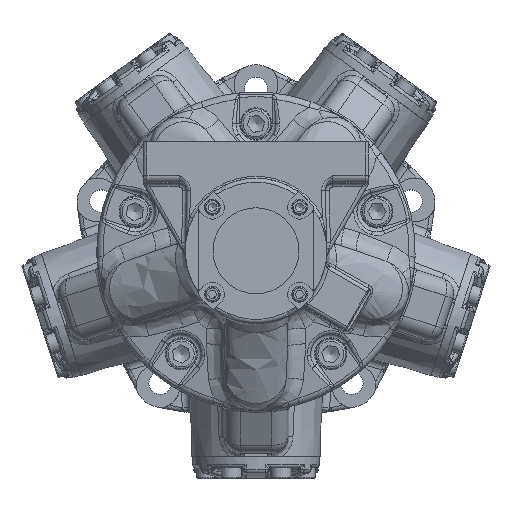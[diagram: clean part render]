
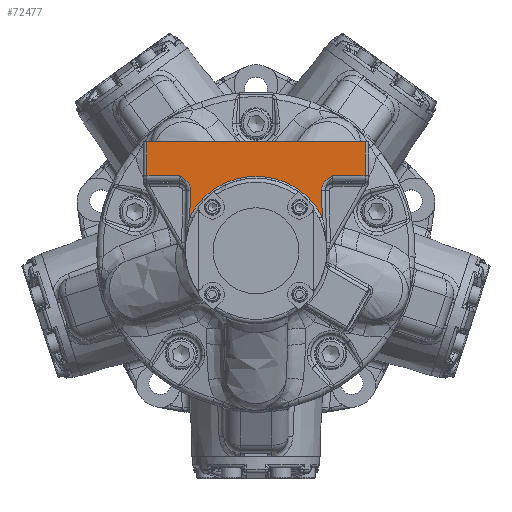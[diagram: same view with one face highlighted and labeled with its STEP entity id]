
A CAD part, top view. The second image highlights one B-rep face of the part: STEP entity #72477.
In plain terms, the highlighted planar face has unit normal (0, 0, 1).
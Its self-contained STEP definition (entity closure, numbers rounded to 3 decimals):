
#5947=B_SPLINE_CURVE_WITH_KNOTS('',3,(#193135,#193136,#193137,#193138,#193139,
#193140,#193141,#193142,#193143,#193144,#193145,#193146),.UNSPECIFIED.,
 .F.,.F.,(4,2,1,1,1,1,1,1,4),(-0.001,0.,0.309,
0.463,0.617,0.771,0.926,1.234,
1.543),.UNSPECIFIED.);
#5950=B_SPLINE_CURVE_WITH_KNOTS('',3,(#193274,#193275,#193276,#193277,#193278,
#193279,#193280,#193281,#193282,#193283,#193284),.UNSPECIFIED.,.F.,.F.,
(4,1,1,1,1,1,2,4),(0.,0.309,0.617,0.771,
0.926,1.234,1.543,1.544),
 .UNSPECIFIED.);
#10052=LINE('',#193163,#13050);
#10071=LINE('',#194385,#13069);
#10121=LINE('',#195871,#13119);
#10122=LINE('',#195872,#13120);
#10123=LINE('',#195874,#13121);
#10124=LINE('',#195876,#13122);
#10125=LINE('',#195877,#13123);
#13050=VECTOR('',#91939,10.);
#13069=VECTOR('',#92054,10.);
#13119=VECTOR('',#92296,10.);
#13120=VECTOR('',#92297,10.);
#13121=VECTOR('',#92298,10.);
#13122=VECTOR('',#92301,10.);
#13123=VECTOR('',#92302,10.);
#18310=FACE_OUTER_BOUND('',#22832,.T.);
#22832=EDGE_LOOP('',(#62396,#62397,#62398,#62399,#62400,#62401,#62402,#62403,
#62404,#62405));
#25667=CIRCLE('',#78134,59.5);
#31684=VERTEX_POINT('',#193055);
#31687=VERTEX_POINT('',#193133);
#31689=VERTEX_POINT('',#193149);
#31690=VERTEX_POINT('',#193200);
#31694=VERTEX_POINT('',#193273);
#31732=VERTEX_POINT('',#194375);
#31734=VERTEX_POINT('',#194381);
#31761=VERTEX_POINT('',#194575);
#31816=VERTEX_POINT('',#195870);
#31817=VERTEX_POINT('',#195873);
#41825=EDGE_CURVE('',#31684,#31687,#5947,.T.);
#41828=EDGE_CURVE('',#31687,#31689,#10052,.T.);
#41833=EDGE_CURVE('',#31694,#31690,#5950,.T.);
#41906=EDGE_CURVE('',#31732,#31734,#10071,.T.);
#42048=EDGE_CURVE('',#31816,#31734,#10121,.T.);
#42049=EDGE_CURVE('',#31690,#31732,#10122,.T.);
#42050=EDGE_CURVE('',#31817,#31694,#10123,.T.);
#42051=EDGE_CURVE('',#31689,#31817,#25667,.T.);
#42052=EDGE_CURVE('',#31761,#31684,#10124,.T.);
#42053=EDGE_CURVE('',#31816,#31761,#10125,.T.);
#62396=ORIENTED_EDGE('',*,*,#42048,.T.);
#62397=ORIENTED_EDGE('',*,*,#41906,.F.);
#62398=ORIENTED_EDGE('',*,*,#42049,.F.);
#62399=ORIENTED_EDGE('',*,*,#41833,.F.);
#62400=ORIENTED_EDGE('',*,*,#42050,.F.);
#62401=ORIENTED_EDGE('',*,*,#42051,.F.);
#62402=ORIENTED_EDGE('',*,*,#41828,.F.);
#62403=ORIENTED_EDGE('',*,*,#41825,.F.);
#62404=ORIENTED_EDGE('',*,*,#42052,.F.);
#62405=ORIENTED_EDGE('',*,*,#42053,.F.);
#63871=PLANE('',#78133);
#72477=ADVANCED_FACE('',(#18310),#63871,.T.);
#78133=AXIS2_PLACEMENT_3D('',#195869,#92294,#92295);
#78134=AXIS2_PLACEMENT_3D('',#195875,#92299,#92300);
#91939=DIRECTION('',(0.025,-1.,0.));
#92054=DIRECTION('',(0.,1.,0.));
#92294=DIRECTION('center_axis',(0.,0.,1.));
#92295=DIRECTION('ref_axis',(-1.,0.,0.));
#92296=DIRECTION('',(-1.,0.,0.));
#92297=DIRECTION('',(-1.,0.,0.));
#92298=DIRECTION('',(0.025,1.,0.));
#92299=DIRECTION('center_axis',(0.,0.,1.));
#92300=DIRECTION('ref_axis',(0.,1.,0.));
#92301=DIRECTION('',(-1.,0.,0.));
#92302=DIRECTION('',(0.,-1.,0.));
#193055=CARTESIAN_POINT('',(61.019,60.,279.658));
#193133=CARTESIAN_POINT('',(52.312,48.156,279.658));
#193135=CARTESIAN_POINT('Ctrl Pts',(61.019,60.,279.658));
#193136=CARTESIAN_POINT('Ctrl Pts',(61.015,59.998,279.658));
#193137=CARTESIAN_POINT('Ctrl Pts',(61.011,59.995,279.658));
#193138=CARTESIAN_POINT('Ctrl Pts',(60.13,59.456,279.658));
#193139=CARTESIAN_POINT('Ctrl Pts',(58.814,58.649,279.658));
#193140=CARTESIAN_POINT('Ctrl Pts',(57.154,57.43,279.658));
#193141=CARTESIAN_POINT('Ctrl Pts',(55.978,56.411,279.658));
#193142=CARTESIAN_POINT('Ctrl Pts',(54.919,55.29,279.658));
#193143=CARTESIAN_POINT('Ctrl Pts',(53.683,53.624,279.658));
#193144=CARTESIAN_POINT('Ctrl Pts',(52.574,51.271,279.658));
#193145=CARTESIAN_POINT('Ctrl Pts',(52.286,49.184,279.658));
#193146=CARTESIAN_POINT('Ctrl Pts',(52.312,48.156,279.658));
#193149=CARTESIAN_POINT('',(52.832,27.368,279.658));
#193163=CARTESIAN_POINT('',(52.33,47.435,279.658));
#193200=CARTESIAN_POINT('',(-61.019,60.,279.658));
#193273=CARTESIAN_POINT('',(-52.312,48.156,279.658));
#193274=CARTESIAN_POINT('Ctrl Pts',(-52.312,48.156,279.658));
#193275=CARTESIAN_POINT('Ctrl Pts',(-52.286,49.184,
279.658));
#193276=CARTESIAN_POINT('Ctrl Pts',(-52.574,51.271,
279.658));
#193277=CARTESIAN_POINT('Ctrl Pts',(-53.684,53.624,
279.658));
#193278=CARTESIAN_POINT('Ctrl Pts',(-54.919,55.289,
279.658));
#193279=CARTESIAN_POINT('Ctrl Pts',(-56.335,56.79,
279.658));
#193280=CARTESIAN_POINT('Ctrl Pts',(-58.378,58.384,
279.658));
#193281=CARTESIAN_POINT('Ctrl Pts',(-60.13,59.456,
279.658));
#193282=CARTESIAN_POINT('Ctrl Pts',(-61.011,59.995,
279.658));
#193283=CARTESIAN_POINT('Ctrl Pts',(-61.015,59.998,
279.658));
#193284=CARTESIAN_POINT('Ctrl Pts',(-61.019,60.,279.658));
#194375=CARTESIAN_POINT('',(-87.,60.,279.658));
#194381=CARTESIAN_POINT('',(-87.,87.1,279.658));
#194385=CARTESIAN_POINT('',(-87.,90.,279.658));
#194575=CARTESIAN_POINT('',(87.,60.,279.658));
#195869=CARTESIAN_POINT('Origin',(-90.,90.,279.658));
#195870=CARTESIAN_POINT('',(87.,87.1,279.658));
#195871=CARTESIAN_POINT('',(-40.349,87.1,279.658));
#195872=CARTESIAN_POINT('',(-45.,60.,279.658));
#195873=CARTESIAN_POINT('',(-52.832,27.368,279.658));
#195874=CARTESIAN_POINT('',(-52.386,45.185,279.658));
#195875=CARTESIAN_POINT('Origin',(0.,0.,279.658));
#195876=CARTESIAN_POINT('',(-45.,60.,279.658));
#195877=CARTESIAN_POINT('',(87.,90.,279.658));
